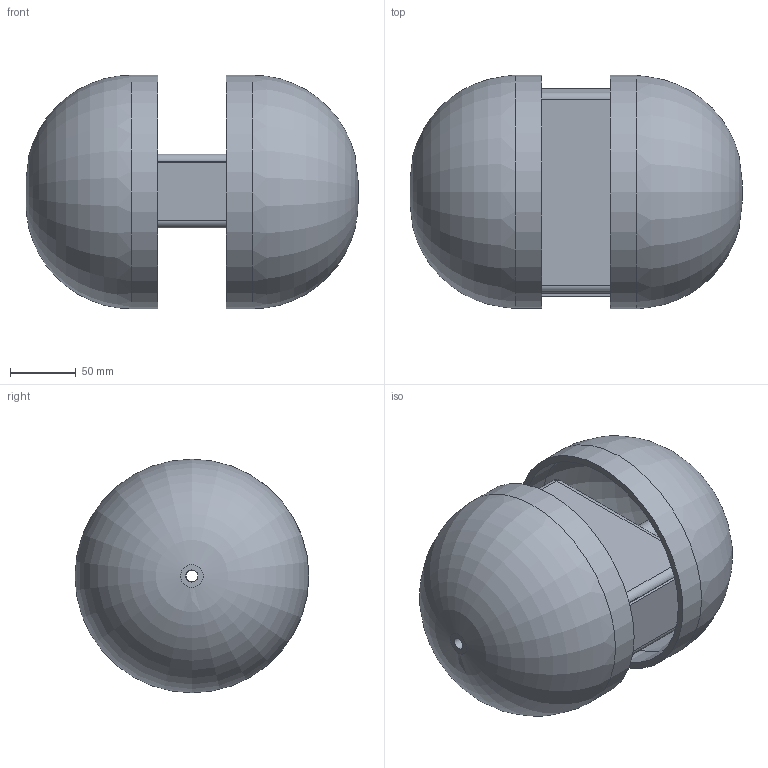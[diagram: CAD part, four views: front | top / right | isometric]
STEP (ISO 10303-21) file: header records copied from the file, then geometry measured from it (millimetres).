
FILE_DESCRIPTION(/* description */ ('STEP AP242 Edition 2','CAx-IF Rec.Pracs.---Representation and Presentation of Product Manufacturing Information (PMI)---4.0---2014-10-13','CAx-IF Rec.Pracs.---3D Tessellated Geometry---0.4---2014-09-14','2;1','CAx-IF Rec.Pracs.---User Defined Attributes---1.5---2016-08-15'),/* implementation_level */ '2;1');
FILE_NAME(/* name */ '6af047cfb1a50627b190fa60',/* time_stamp */ '2026-11-08T09:58:40Z',/* author */ (''),/* organization */ (''),/* preprocessor_version */ 'ST-DEVELOPER v20',/* originating_system */ 'ONSHAPE BY PTC INC, 1.223',/* authorisation */ ' ');
FILE_SCHEMA (('AP242_MANAGED_MODEL_BASED_3D_ENGINEERING_MIM_LF { 1 0 10303 442 3 1 4 }'));
Length unit declared in the file: metre
Products named in the file (6): Assembly 1; Part 4; Part 3; Part 2; Part 1; 2wd705E_PCB
Assembly tree (5 placements, depth 2):
  Assembly 1
    Part 4
    Part 3
    Part 2
    Part 1
    2wd705E_PCB
Bounding box: 252.15 x 177.66 x 177.37 mm (x, y, z)
Volume: 811664.7 mm3; surface area: 430303.6 mm2
Topology: 5 solids, 5 shells, 159 faces, 403 edges, 242 vertices
Faces by surface type: cylinder 99, plane 38, sphere 16, torus 6
Full cylindrical faces by diameter (mm): 0.8 x16, 1 x32, 2.29 x3, 9.146 x2, 12.827 x4, 19.146 x2, 167.369 x2, 177.369 x2
Entity records: 4666 total; most frequent: DIRECTION 842, CARTESIAN_POINT 709, ORIENTED_EDGE 620, AXIS2_PLACEMENT_3D 367, EDGE_LOOP 350, FACE_BOUND 350, EDGE_CURVE 310, VERTEX_POINT 234
